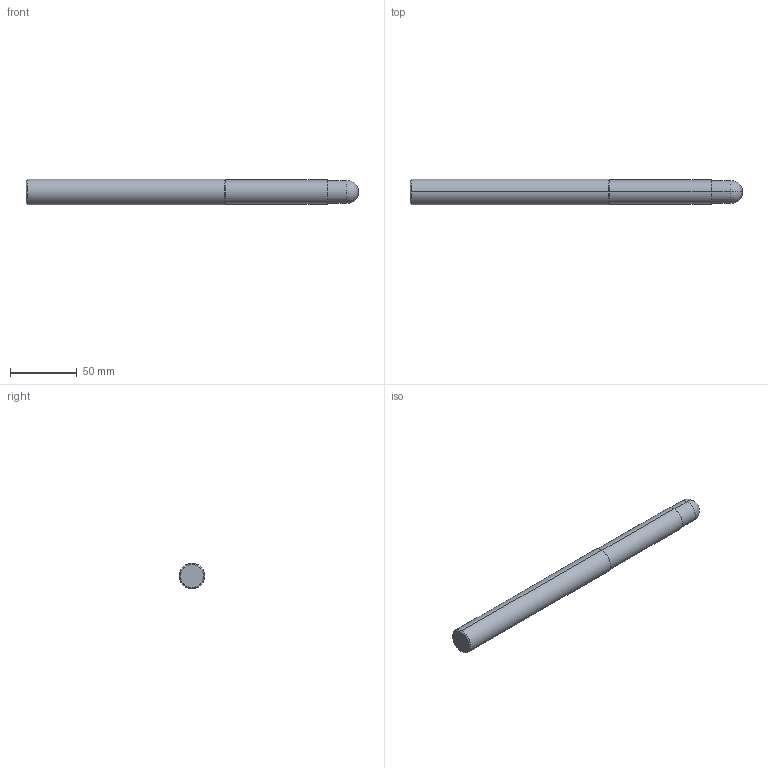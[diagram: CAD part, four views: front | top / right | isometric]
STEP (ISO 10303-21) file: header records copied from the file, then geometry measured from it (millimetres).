
FILE_DESCRIPTION (( 'STEP AP214' ), '1' );
FILE_NAME ('01-0235.STEP', '2021-02-10T00:07:56', ( 'USER' ), ( '' ), 'SwSTEP 2.0', 'SolidWorks 2018', '' );
FILE_SCHEMA (( 'AUTOMOTIVE_DESIGN' ));
Length unit declared in the file: millimetre
Products named in the file (2): 01-0235
Bounding box: 248.4 x 19.05 x 19.05 mm (x, y, z)
Volume: 66706.5 mm3; surface area: 14784.6 mm2
Topology: 1 solids, 1 shells, 16 faces, 30 edges, 16 vertices
Faces by surface type: cone 6, cylinder 6, torus 2, plane 2
Entity records: 445 total; most frequent: DIRECTION 84, CARTESIAN_POINT 64, ORIENTED_EDGE 60, AXIS2_PLACEMENT_3D 36, EDGE_CURVE 30, CIRCLE 18, VERTEX_POINT 16, ADVANCED_FACE 16
